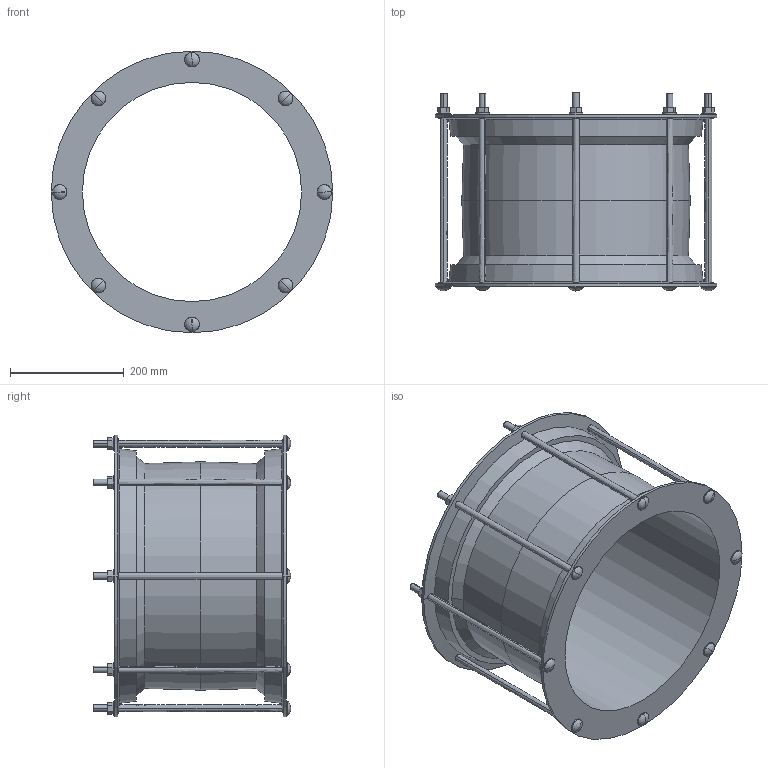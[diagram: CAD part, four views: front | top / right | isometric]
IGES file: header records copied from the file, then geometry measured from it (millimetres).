
Start section:  PTC IGES file: 367_384.igs
Global section: file name: 367_384.igs; native system: Creo Parametric by PTC Inc.; preprocessor: 2016130; author: mfairey; organization: Unknown; date: 20181218.110037; units: millimetre
Bounding box: 496 x 348 x 496 mm (x, y, z)
Surface area: 1114421.2 mm2 (no closed solid volume)
Topology: 0 solids, 0 shells, 178 faces, 848 edges, 832 vertices
Faces by surface type: revolution 102, bspline 76
